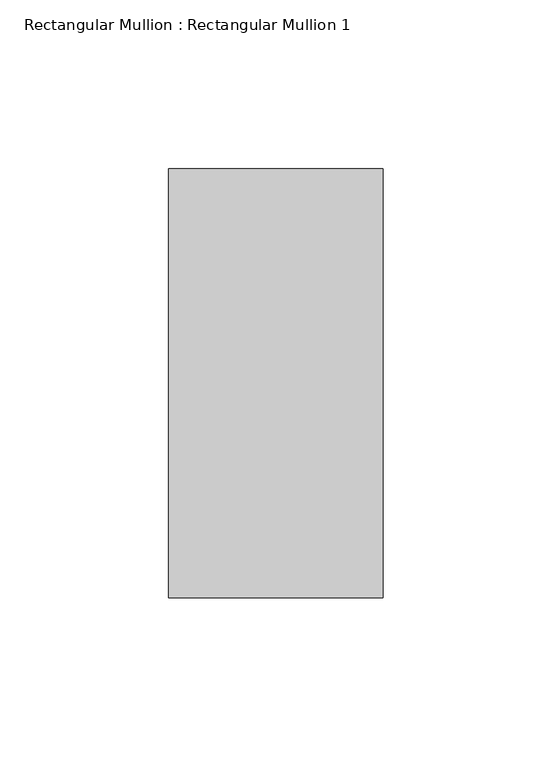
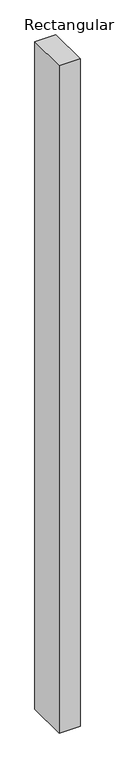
"""IFC4 building model written with IfcOpenShell, lengths in millimetres: member geometry, Rectangular Mullion : Rectangular Mullion 1."""

from ifc_helpers import new_model, si_unit, frame, origin, place, context, project, spatial, polyline, outline, extrude, source, transform, mapped, element, save


def rectangular_mullion_rectangular_mullion_1_9379107f(model_context):
    return source(origin(), model_context, "Body", "SweptSolid", [
        extrude(outline(polyline([(0.0, 63.5), (0.0, -63.5), (-63.5, -63.5), (-63.5, 63.5), (0.0, 63.5)])), frame((0.0, 0.0, -2136.3214285), z_axis=(0.0, 0.0, 1.0), x_axis=(1.0, 0.0, 0.0)), (0.0, 0.0, 1.0), 2136.3214285),
    ])


if __name__ == "__main__":
    model = new_model("IFC4")
    model_context = context("Model", 3, world=origin())
    ifc_project = project(units=[si_unit("LENGTHUNIT", "METRE", prefix="MILLI")], contexts=[model_context])
    site = spatial("IfcSite", under=ifc_project)
    building = spatial("IfcBuilding", under=site)
    placement = place(None, origin())
    rectangular_mullion_rectangular_mullion_1_shape = rectangular_mullion_rectangular_mullion_1_9379107f(model_context)
    element("IfcMember", 1, ObjectType="Rectangular Mullion : Rectangular Mullion 1", at=placement, inside=building, context=model_context, shape_type="MappedRepresentation", body=[
        mapped(rectangular_mullion_rectangular_mullion_1_shape, transform((0.0, 0.0, 0.0), x_axis=(1.0, 0.0, 0.0), y_axis=(0.0, 1.0, 0.0), z_axis=(0.0, 0.0, 1.0))),
    ])
    save(model, "model.ifc")
